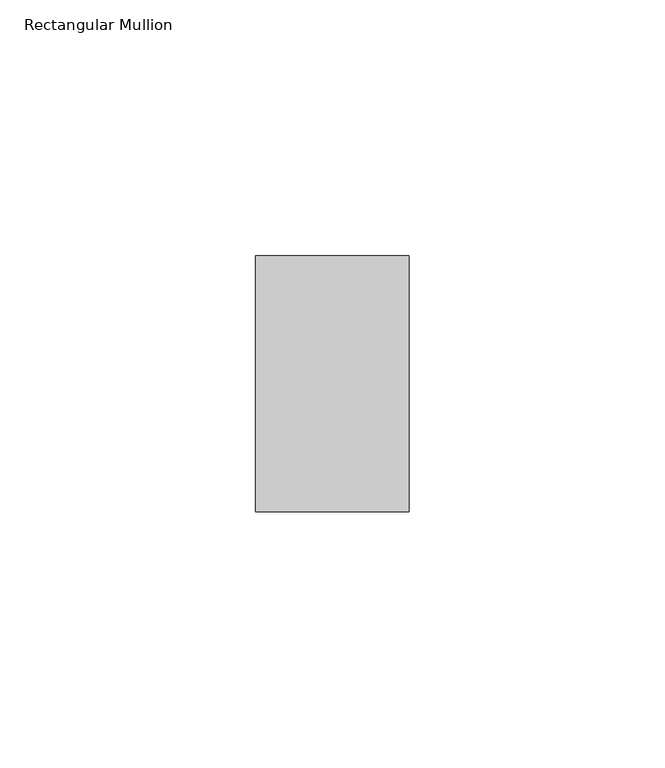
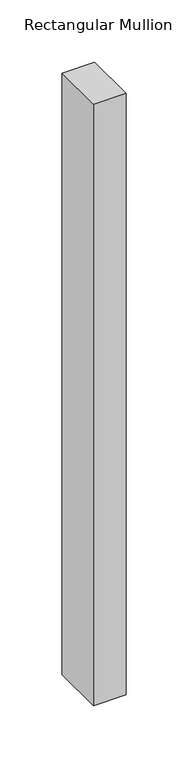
"""IFC4 building model written with IfcOpenShell, lengths in millimetres: member geometry, Rectangular Mullion : ARQ_TV_MULL_50x30mm."""

from ifc_helpers import new_model, si_unit, frame, origin, place, context, project, spatial, polyline, outline, extrude, source, transform, mapped, element, save


def rectangular_mullion_61d69578(model_context):
    return source(origin(), model_context, "Body", "SweptSolid", [
        extrude(outline(polyline([(0.0, 25.0), (0.0, -25.0), (-30.0, -25.0), (-30.0, 25.0), (0.0, 25.0)])), frame((0.0, 0.0, -588.4345443), z_axis=(0.0, 0.0, 1.0), x_axis=(1.0, 0.0, 0.0)), (0.0, 0.0, 1.0), 588.4345443),
    ])


if __name__ == "__main__":
    model = new_model("IFC4")
    model_context = context("Model", 3, world=origin())
    ifc_project = project(units=[si_unit("LENGTHUNIT", "METRE", prefix="MILLI")], contexts=[model_context])
    site = spatial("IfcSite", under=ifc_project)
    building = spatial("IfcBuilding", under=site)
    placement = place(None, origin())
    rectangular_mullion_shape = rectangular_mullion_61d69578(model_context)
    element("IfcMember", 1, ObjectType="Rectangular Mullion : ARQ_TV_MULL_50x30mm", at=placement, inside=building, context=model_context, shape_type="MappedRepresentation", body=[
        mapped(rectangular_mullion_shape, transform((0.0, 0.0, 0.0), x_axis=(1.0, 0.0, 0.0), y_axis=(0.0, 1.0, 0.0), z_axis=(0.0, 0.0, 1.0))),
    ])
    save(model, "model.ifc")
